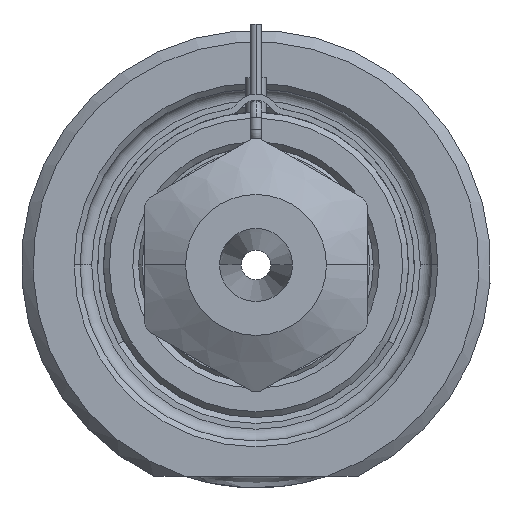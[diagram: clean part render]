
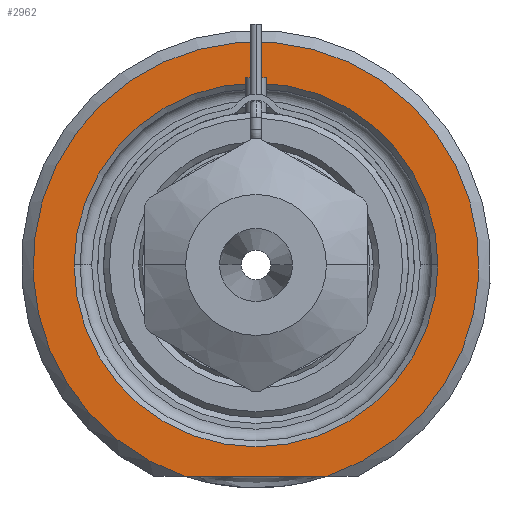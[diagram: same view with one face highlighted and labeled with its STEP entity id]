
A CAD part, front view. The second image highlights one B-rep face of the part: STEP entity #2962.
In plain terms, the highlighted planar face has unit normal (0, -1, 0).
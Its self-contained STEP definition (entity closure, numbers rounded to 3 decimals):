
#1=DIRECTION('',(1.,0.,0.));
#2=VECTOR('',#1,12.166);
#3=CARTESIAN_POINT('',(-6.083,0.,-18.));
#4=LINE('',#3,#2);
#5=CARTESIAN_POINT('',(0.,0.,0.));
#6=DIRECTION('',(0.,1.,0.));
#7=DIRECTION('',(-1.,0.,0.));
#8=AXIS2_PLACEMENT_3D('',#5,#6,#7);
#10=CARTESIAN_POINT('',(0.,0.,0.));
#11=DIRECTION('',(0.,1.,0.));
#12=DIRECTION('',(1.,0.,0.));
#13=AXIS2_PLACEMENT_3D('',#10,#11,#12);
#264=CARTESIAN_POINT('',(0.,0.,0.));
#265=DIRECTION('',(0.,-1.,0.));
#266=DIRECTION('',(0.32,0.,-0.947));
#267=AXIS2_PLACEMENT_3D('',#264,#265,#266);
#2494=CARTESIAN_POINT('',(-15.5,0.,0.));
#2495=CARTESIAN_POINT('',(15.5,0.,0.));
#2496=VERTEX_POINT('',#2494);
#2497=VERTEX_POINT('',#2495);
#2552=CARTESIAN_POINT('',(-6.083,0.,-18.));
#2553=CARTESIAN_POINT('',(6.083,0.,-18.));
#2554=VERTEX_POINT('',#2552);
#2555=VERTEX_POINT('',#2553);
#2945=CARTESIAN_POINT('',(0.,0.,0.));
#2946=DIRECTION('',(0.,-1.,0.));
#2947=DIRECTION('',(1.,0.,0.));
#2948=AXIS2_PLACEMENT_3D('',#2945,#2946,#2947);
#2949=PLANE('',#2948);
#2951=ORIENTED_EDGE('',*,*,#2950,.F.);
#2953=ORIENTED_EDGE('',*,*,#2952,.F.);
#2954=EDGE_LOOP('',(#2951,#2953));
#2955=FACE_OUTER_BOUND('',#2954,.F.);
#2957=ORIENTED_EDGE('',*,*,#2956,.F.);
#2959=ORIENTED_EDGE('',*,*,#2958,.F.);
#2960=EDGE_LOOP('',(#2957,#2959));
#2961=FACE_BOUND('',#2960,.F.);
#2962=ADVANCED_FACE('',(#2955,#2961),#2949,.T.);
#9=CIRCLE('',#8,15.5);
#14=CIRCLE('',#13,15.5);
#268=CIRCLE('',#267,19.);
#2950=EDGE_CURVE('',#2554,#2555,#4,.T.);
#2952=EDGE_CURVE('',#2555,#2554,#268,.T.);
#2956=EDGE_CURVE('',#2496,#2497,#9,.T.);
#2958=EDGE_CURVE('',#2497,#2496,#14,.T.);
